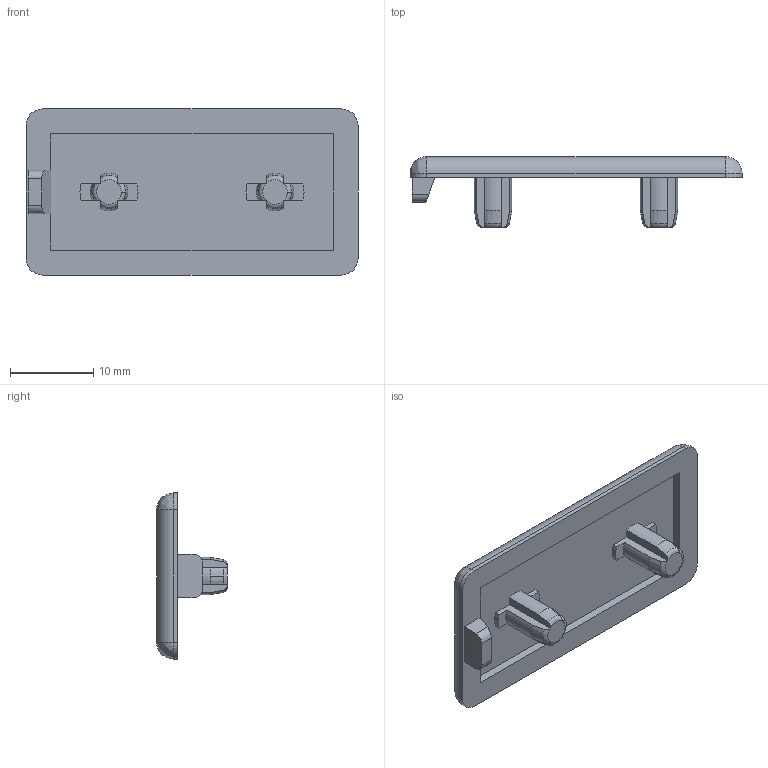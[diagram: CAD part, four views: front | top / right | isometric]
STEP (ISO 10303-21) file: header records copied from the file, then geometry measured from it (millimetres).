
FILE_DESCRIPTION (( 'STEP AP203' ), '1' );
FILE_NAME ('10017_ABD5.4020.STEP', '2018-05-18T07:14:11', ( '' ), ( '' ), 'SwSTEP 2.0', 'SolidWorks 2017', '' );
FILE_SCHEMA (( 'CONFIG_CONTROL_DESIGN' ));
Length unit declared in the file: millimetre
Products named in the file (1): 10017_ABD5.4020
Bounding box: 40 x 8.5 x 20 mm (x, y, z)
Volume: 1637.7 mm3; surface area: 2137.5 mm2
Topology: 1 solids, 1 shells, 87 faces, 238 edges, 152 vertices
Faces by surface type: plane 38, cylinder 26, bspline 14, cone 9
Entity records: 3051 total; most frequent: CARTESIAN_POINT 886, ORIENTED_EDGE 468, DIRECTION 400, EDGE_CURVE 234, VERTEX_POINT 152, AXIS2_PLACEMENT_3D 138, VECTOR 124, LINE 124
